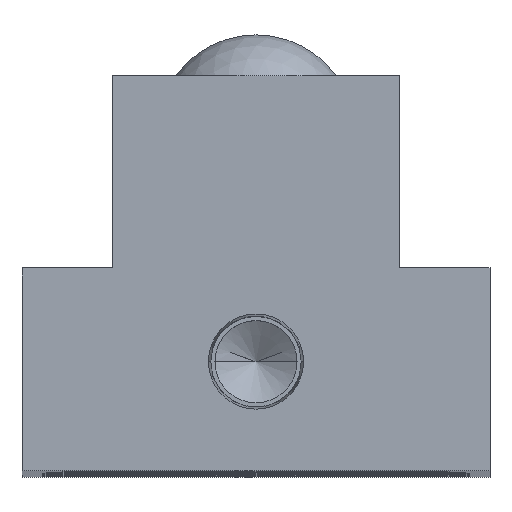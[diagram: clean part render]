
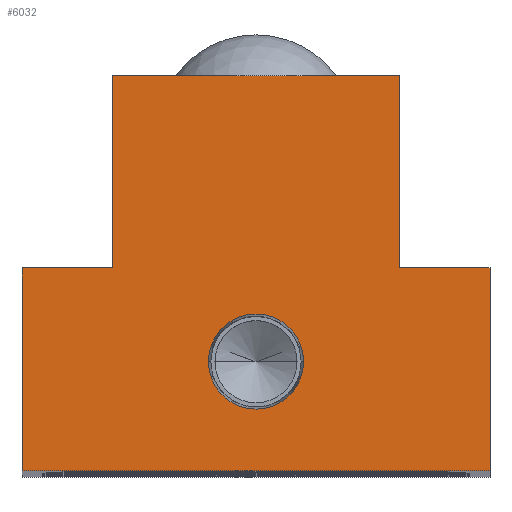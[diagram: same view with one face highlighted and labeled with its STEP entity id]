
A CAD part, top view. The second image highlights one B-rep face of the part: STEP entity #6032.
In plain terms, the highlighted planar face has unit normal (0, 0, 1).
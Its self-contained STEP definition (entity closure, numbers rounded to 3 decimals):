
#25 = EDGE_CURVE ( 'NONE', #991, #3773, #4509, .T. ) ;
#39 = VERTEX_POINT ( 'NONE', #2688 ) ;
#52 = VERTEX_POINT ( 'NONE', #4037 ) ;
#76 = PLANE ( 'NONE',  #5554 ) ;
#185 = DIRECTION ( 'NONE',  ( 0., 1., 0. ) ) ;
#271 = ORIENTED_EDGE ( 'NONE', *, *, #328, .T. ) ;
#328 = EDGE_CURVE ( 'NONE', #2234, #6087, #611, .T. ) ;
#451 = VECTOR ( 'NONE', #4737, 1000. ) ;
#611 = LINE ( 'NONE', #4215, #451 ) ;
#619 = VERTEX_POINT ( 'NONE', #4128 ) ;
#866 = VECTOR ( 'NONE', #4344, 1000. ) ;
#893 = CARTESIAN_POINT ( 'NONE',  ( 4.574, 10.5, 0. ) ) ;
#898 = VERTEX_POINT ( 'NONE', #2338 ) ;
#991 = VERTEX_POINT ( 'NONE', #4800 ) ;
#1006 = CARTESIAN_POINT ( 'NONE',  ( 13.75, 19.5, 0. ) ) ;
#1048 = ORIENTED_EDGE ( 'NONE', *, *, #3566, .T. ) ;
#1081 = CARTESIAN_POINT ( 'NONE',  ( 0., 0., 0. ) ) ;
#1203 = LINE ( 'NONE', #4695, #3736 ) ;
#1259 = EDGE_LOOP ( 'NONE', ( #2207, #5364, #3802, #2906, #271, #1048, #4216, #2970 ) ) ;
#1368 = DIRECTION ( 'NONE',  ( 1., 0., 0. ) ) ;
#1543 = VERTEX_POINT ( 'NONE', #1006 ) ;
#1725 = LINE ( 'NONE', #4965, #5057 ) ;
#1782 = EDGE_CURVE ( 'NONE', #3773, #991, #5004, .T. ) ;
#1859 = DIRECTION ( 'NONE',  ( -1., 0., 0. ) ) ;
#1885 = ORIENTED_EDGE ( 'NONE', *, *, #1782, .F. ) ;
#1887 = VECTOR ( 'NONE', #185, 1000. ) ;
#1917 = CARTESIAN_POINT ( 'NONE',  ( 0., 10.5, 0. ) ) ;
#1987 = DIRECTION ( 'NONE',  ( -1., 0., 0. ) ) ;
#2009 = CARTESIAN_POINT ( 'NONE',  ( 22.5, 19.5, 0. ) ) ;
#2072 = DIRECTION ( 'NONE',  ( 0., 0., -1. ) ) ;
#2130 = DIRECTION ( 'NONE',  ( 0., 0., 1. ) ) ;
#2136 = CARTESIAN_POINT ( 'NONE',  ( -13.75, 19.5, 0. ) ) ;
#2207 = ORIENTED_EDGE ( 'NONE', *, *, #5974, .T. ) ;
#2234 = VERTEX_POINT ( 'NONE', #5700 ) ;
#2335 = LINE ( 'NONE', #2009, #866 ) ;
#2338 = CARTESIAN_POINT ( 'NONE',  ( 13.75, 38., 0. ) ) ;
#2352 = CARTESIAN_POINT ( 'NONE',  ( 22.5, 19.5, 0. ) ) ;
#2399 = DIRECTION ( 'NONE',  ( 1., 0., 0. ) ) ;
#2520 = EDGE_CURVE ( 'NONE', #4275, #39, #1203, .T. ) ;
#2603 = DIRECTION ( 'NONE',  ( 0., -1., 0. ) ) ;
#2612 = DIRECTION ( 'NONE',  ( 1., 0., 0. ) ) ;
#2688 = CARTESIAN_POINT ( 'NONE',  ( 22.5, 0., 0. ) ) ;
#2831 = CARTESIAN_POINT ( 'NONE',  ( -22.5, 0., 0. ) ) ;
#2906 = ORIENTED_EDGE ( 'NONE', *, *, #5446, .T. ) ;
#2925 = ORIENTED_EDGE ( 'NONE', *, *, #25, .F. ) ;
#2970 = ORIENTED_EDGE ( 'NONE', *, *, #2520, .T. ) ;
#3078 = LINE ( 'NONE', #2352, #5287 ) ;
#3200 = AXIS2_PLACEMENT_3D ( 'NONE', #1917, #5224, #2399 ) ;
#3387 = EDGE_CURVE ( 'NONE', #52, #1543, #3078, .T. ) ;
#3447 = LINE ( 'NONE', #3858, #4541 ) ;
#3486 = DIRECTION ( 'NONE',  ( -1., 0., 0. ) ) ;
#3566 = EDGE_CURVE ( 'NONE', #6087, #619, #3447, .T. ) ;
#3689 = AXIS2_PLACEMENT_3D ( 'NONE', #5008, #2130, #2612 ) ;
#3736 = VECTOR ( 'NONE', #1368, 1000. ) ;
#3773 = VERTEX_POINT ( 'NONE', #893 ) ;
#3802 = ORIENTED_EDGE ( 'NONE', *, *, #5591, .T. ) ;
#3858 = CARTESIAN_POINT ( 'NONE',  ( -13.75, 19.5, 0. ) ) ;
#4037 = CARTESIAN_POINT ( 'NONE',  ( 22.5, 19.5, 0. ) ) ;
#4039 = CARTESIAN_POINT ( 'NONE',  ( 13.75, 38., 0. ) ) ;
#4128 = CARTESIAN_POINT ( 'NONE',  ( -22.5, 19.5, 0. ) ) ;
#4161 = VECTOR ( 'NONE', #3486, 1000. ) ;
#4215 = CARTESIAN_POINT ( 'NONE',  ( -13.75, 38., 0. ) ) ;
#4216 = ORIENTED_EDGE ( 'NONE', *, *, #6095, .T. ) ;
#4228 = FACE_OUTER_BOUND ( 'NONE', #1259, .T. ) ;
#4275 = VERTEX_POINT ( 'NONE', #2831 ) ;
#4344 = DIRECTION ( 'NONE',  ( 0., 1., 0. ) ) ;
#4509 = CIRCLE ( 'NONE', #3689, 4.574 ) ;
#4541 = VECTOR ( 'NONE', #1987, 1000. ) ;
#4695 = CARTESIAN_POINT ( 'NONE',  ( 22.5, 0., 0. ) ) ;
#4737 = DIRECTION ( 'NONE',  ( 0., -1., 0. ) ) ;
#4800 = CARTESIAN_POINT ( 'NONE',  ( -4.574, 10.5, 0. ) ) ;
#4871 = CARTESIAN_POINT ( 'NONE',  ( -13.75, 38., 0. ) ) ;
#4965 = CARTESIAN_POINT ( 'NONE',  ( -22.5, 19.5, 0. ) ) ;
#5004 = CIRCLE ( 'NONE', #3200, 4.574 ) ;
#5008 = CARTESIAN_POINT ( 'NONE',  ( 0., 10.5, 0. ) ) ;
#5057 = VECTOR ( 'NONE', #2603, 1000. ) ;
#5224 = DIRECTION ( 'NONE',  ( 0., 0., 1. ) ) ;
#5287 = VECTOR ( 'NONE', #1859, 1000. ) ;
#5364 = ORIENTED_EDGE ( 'NONE', *, *, #3387, .T. ) ;
#5374 = DIRECTION ( 'NONE',  ( -1., 0., 0. ) ) ;
#5441 = LINE ( 'NONE', #4871, #4161 ) ;
#5446 = EDGE_CURVE ( 'NONE', #898, #2234, #5441, .T. ) ;
#5493 = FACE_BOUND ( 'NONE', #5863, .T. ) ;
#5503 = LINE ( 'NONE', #4039, #1887 ) ;
#5554 = AXIS2_PLACEMENT_3D ( 'NONE', #1081, #2072, #5374 ) ;
#5591 = EDGE_CURVE ( 'NONE', #1543, #898, #5503, .T. ) ;
#5700 = CARTESIAN_POINT ( 'NONE',  ( -13.75, 38., 0. ) ) ;
#5863 = EDGE_LOOP ( 'NONE', ( #1885, #2925 ) ) ;
#5974 = EDGE_CURVE ( 'NONE', #39, #52, #2335, .T. ) ;
#6032 = ADVANCED_FACE ( 'NONE', ( #5493, #4228 ), #76, .F. ) ;
#6087 = VERTEX_POINT ( 'NONE', #2136 ) ;
#6095 = EDGE_CURVE ( 'NONE', #619, #4275, #1725, .T. ) ;
